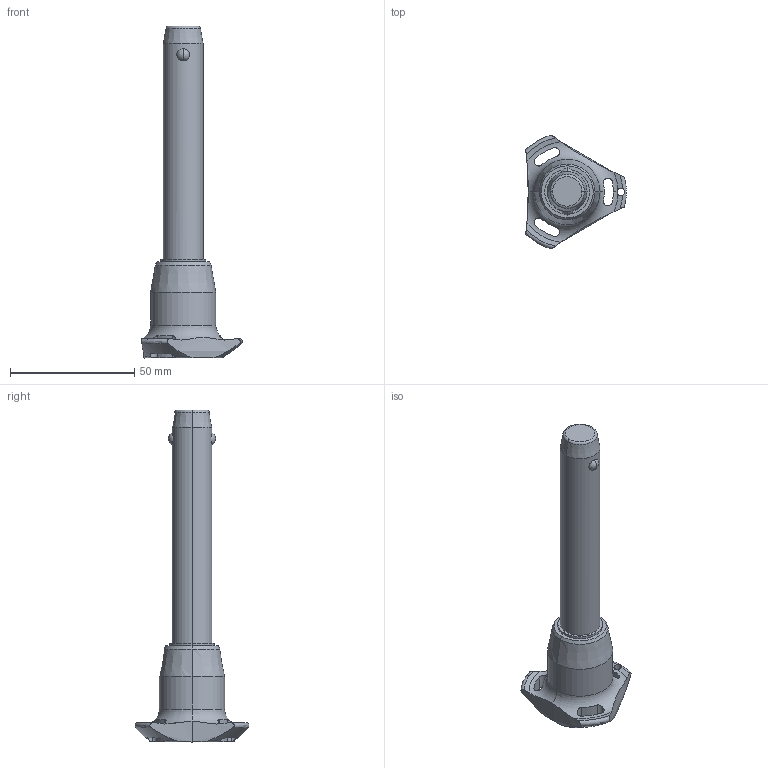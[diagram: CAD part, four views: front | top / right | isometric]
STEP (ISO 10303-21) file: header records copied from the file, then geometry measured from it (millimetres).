
FILE_DESCRIPTION (( 'STEP AP203' ), '1' );
FILE_NAME ('QR1714.M16-080-S.step', '2025-11-12T10:22:17', ( '' ), ( '' ), 'SwSTEP 2.0', 'SolidWorks 2019', '' );
FILE_SCHEMA (( 'CONFIG_CONTROL_DESIGN' ));
Length unit declared in the file: millimetre
Products named in the file (1): QR1714.M16-080-S
Bounding box: 40.5 x 45.88 x 133.7 mm (x, y, z)
Volume: 41181.6 mm3; surface area: 10679.8 mm2
Topology: 1 solids, 1 shells, 65 faces, 178 edges, 113 vertices
Faces by surface type: cylinder 30, cone 14, torus 11, sphere 6, plane 4
Entity records: 2870 total; most frequent: CARTESIAN_POINT 1181, ORIENTED_EDGE 356, DIRECTION 329, EDGE_CURVE 178, AXIS2_PLACEMENT_3D 147, VERTEX_POINT 113, CIRCLE 81, EDGE_LOOP 71
